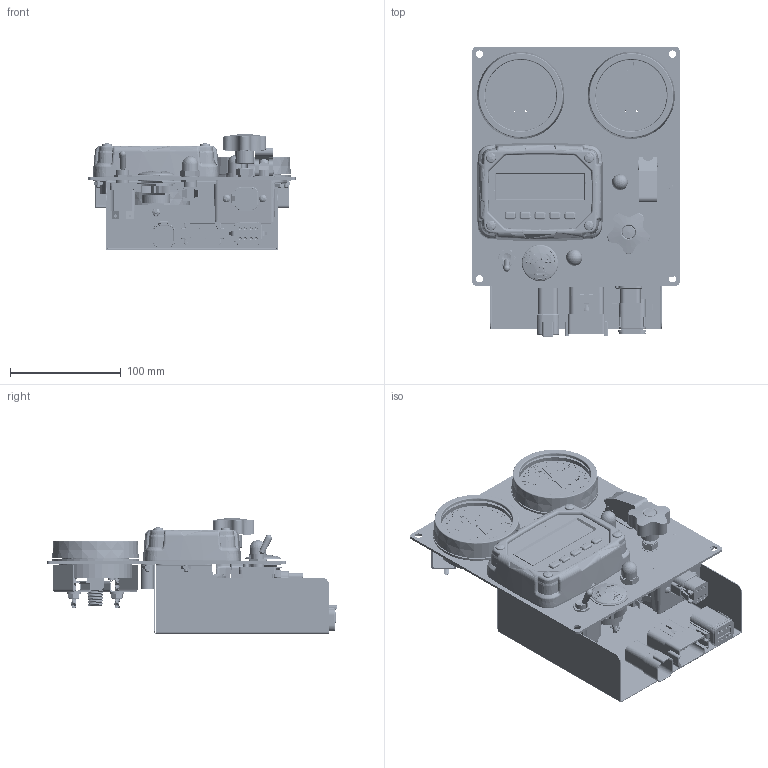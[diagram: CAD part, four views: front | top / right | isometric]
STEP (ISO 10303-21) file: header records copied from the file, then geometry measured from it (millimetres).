
FILE_DESCRIPTION (( 'STEP AP214' ), '1' );
FILE_NAME ('AC02420.STEP', '2026-03-19T20:21:37', ( '' ), ( '' ), 'SwSTEP 2.0', 'SolidWorks 2024', '' );
FILE_SCHEMA (( 'AUTOMOTIVE_DESIGN' ));
Products named in the file (1): AC02420
Bounding box: 187.32 x 262.03 x 105 mm (x, y, z)
Surface area: 361300.4 mm2 (no closed solid volume)
Topology: 0 solids, 719 shells, 4998 faces, 22206 edges, 17599 vertices
Faces by surface type: plane 1939, cylinder 1461, bspline 620, cone 470, torus 420, sphere 88
Entity records: 330913 total; most frequent: CARTESIAN_POINT 174941, ORIENTED_EDGE 30148, DIRECTION 26022, EDGE_CURVE 22174, VERTEX_POINT 17586, AXIS2_PLACEMENT_3D 8711, VECTOR 8600, LINE 8600
